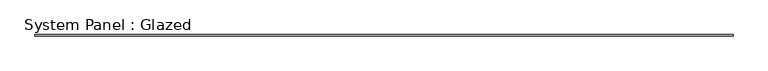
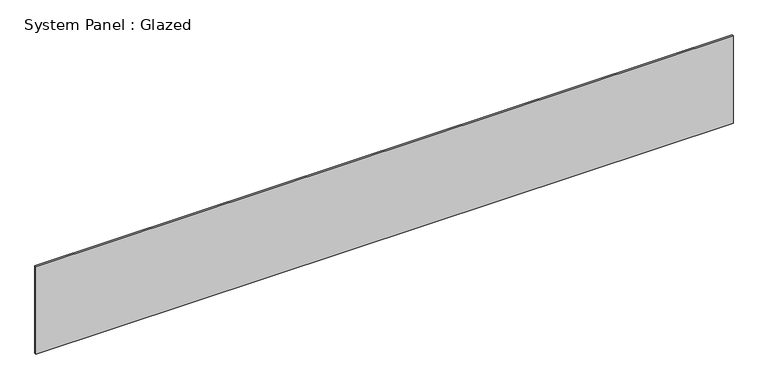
"""IFC4 building model written with IfcOpenShell, lengths in millimetres: plate geometry, System Panel : Glazed."""

from ifc_helpers import new_model, si_unit, origin, origin_with_axes, place, context, project, spatial, polyline, outline, extrude, source, transform, mapped, element, save


def system_panel_glazed_47dfef42(model_context):
    return source(origin(), model_context, "Body", "SweptSolid", [
        extrude(outline(polyline([(6000.0, -12.5), (-6000.0, -12.5), (-6000.0, 12.5), (6000.0, 12.5), (6000.0, -12.5)])), origin_with_axes(), (0.0, 0.0, 1.0), 1589.8),
    ])


if __name__ == "__main__":
    model = new_model("IFC4")
    model_context = context("Model", 3, world=origin())
    ifc_project = project(units=[si_unit("LENGTHUNIT", "METRE", prefix="MILLI")], contexts=[model_context])
    site = spatial("IfcSite", under=ifc_project)
    building = spatial("IfcBuilding", under=site)
    placement = place(None, origin())
    system_panel_glazed_shape = system_panel_glazed_47dfef42(model_context)
    element("IfcPlate", 1, ObjectType="System Panel : Glazed", at=placement, inside=building, context=model_context, shape_type="MappedRepresentation", body=[
        mapped(system_panel_glazed_shape, transform((0.0, 0.0, 0.0), x_axis=(1.0, 0.0, 0.0), y_axis=(0.0, 1.0, 0.0), z_axis=(0.0, 0.0, 1.0))),
    ])
    save(model, "model.ifc")
